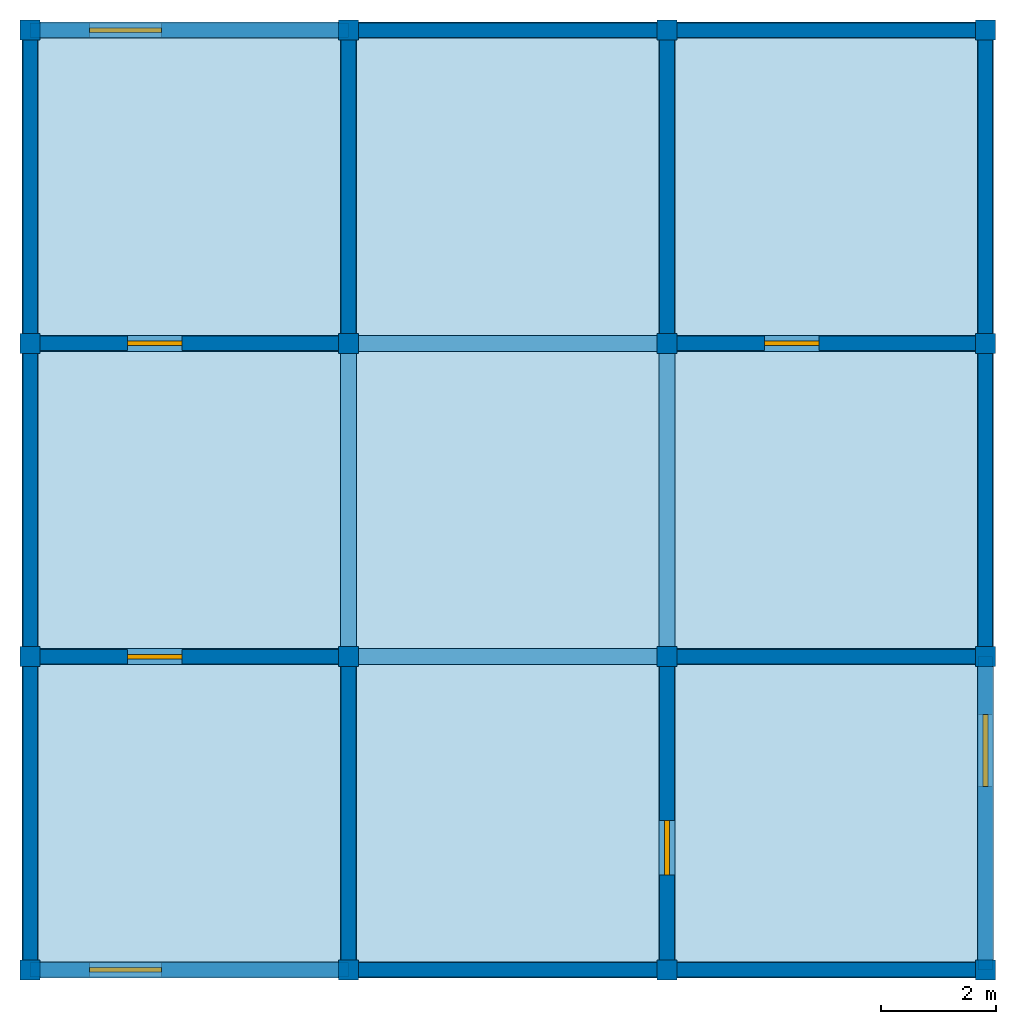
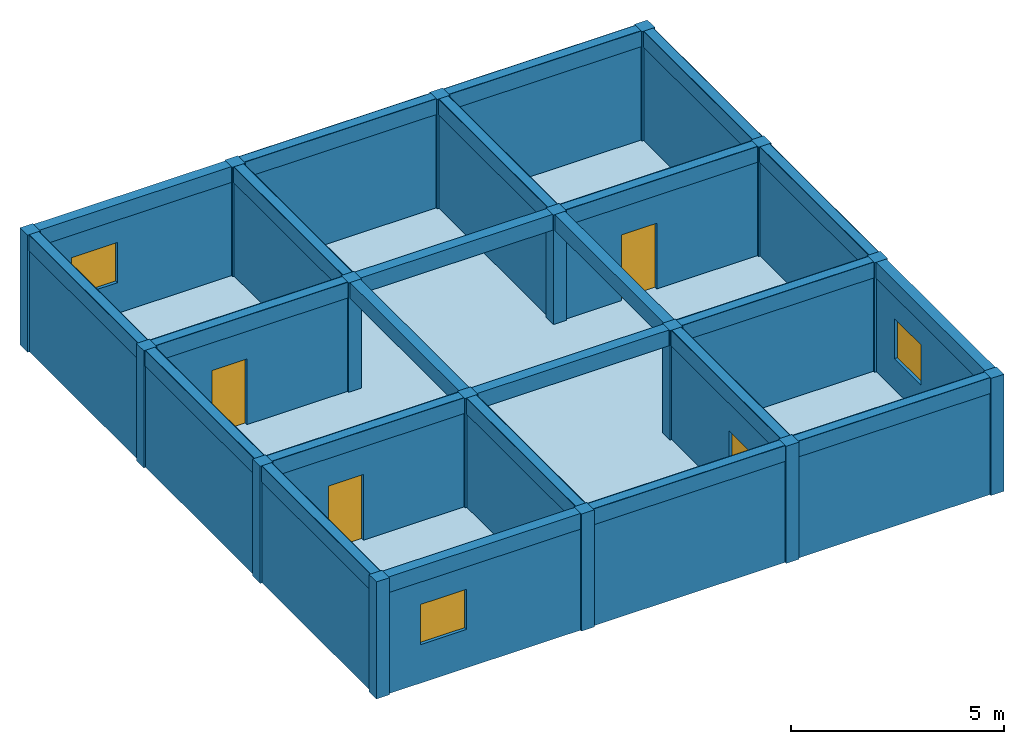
# One storey: 24 beams, 20 walls, 16 columns, 4 doors, 3 windows, 1 slab, 7 openings.
"""IFC4X3 building model written with IfcOpenShell, lengths in metres."""

from ifc_helpers import new_model, si_unit, frame, origin_with_axes, origin_2d, place, context, project, spatial, rectangle, extrude, material, element, fill, save


model = new_model("IFC4X3")

# Units and contexts
model_context = context("Model", 3, precision=1e-05, world=origin_with_axes())
ifc_project = project(units=[si_unit("LENGTHUNIT", "METRE"), si_unit("AREAUNIT", "SQUARE_METRE"), si_unit("VOLUMEUNIT", "CUBIC_METRE")], contexts=[model_context])

# Site, building, storey
site = spatial("IfcSite", under=ifc_project, Name="La Serena Parcel", CompositionType="ELEMENT")
building = spatial("IfcBuilding", under=site, Name="Atlas Building", CompositionType="ELEMENT")
storey = spatial("IfcBuildingStorey", under=building, Name="Level 3", CompositionType="ELEMENT", Elevation=6.7)

# Columns
ifc_material_1 = material(Name="Timber")
column_1_placement = place(None, frame((-8.31, -8.175, 6.698), z_axis=(0.0, 0.0, 1.0), x_axis=(1.0, 0.0, 0.0)))
element("IfcColumn", 1, at=column_1_placement, inside=storey, material=ifc_material_1, Name="Column 3.1", ObjectType="Facade Column", PredefinedType="NOTDEFINED", context=model_context, shape_type="SweptSolid", body=[
    extrude(rectangle(XDim=0.35, YDim=0.35, at=origin_2d()), origin_with_axes(), (0.0, 0.0, 1.0), 3.349),
])
column_2_placement = place(None, frame((-8.31, -2.725, 6.698), z_axis=(0.0, 0.0, 1.0), x_axis=(1.0, 0.0, 0.0)))
element("IfcColumn", 2, at=column_2_placement, inside=storey, material=ifc_material_1, Name="Column 3.2", ObjectType="Core Column", PredefinedType="NOTDEFINED", context=model_context, shape_type="SweptSolid", body=[
    extrude(rectangle(XDim=0.35, YDim=0.35, at=origin_2d()), origin_with_axes(), (0.0, 0.0, 1.0), 3.349),
])
column_3_placement = place(None, frame((-8.31, 2.725, 6.698), z_axis=(0.0, 0.0, 1.0), x_axis=(1.0, 0.0, 0.0)))
element("IfcColumn", 3, at=column_3_placement, inside=storey, material=ifc_material_1, Name="Column 3.3", ObjectType="Corner Column", PredefinedType="PILASTER", context=model_context, shape_type="SweptSolid", body=[
    extrude(rectangle(XDim=0.35, YDim=0.35, at=origin_2d()), origin_with_axes(), (0.0, 0.0, 1.0), 3.349),
])
column_4_placement = place(None, frame((-8.31, 8.175, 6.698), z_axis=(0.0, 0.0, 1.0), x_axis=(1.0, 0.0, 0.0)))
element("IfcColumn", 4, at=column_4_placement, inside=storey, material=ifc_material_1, Name="Column 3.4", ObjectType="Facade Column", PredefinedType="PILASTER", context=model_context, shape_type="SweptSolid", body=[
    extrude(rectangle(XDim=0.35, YDim=0.35, at=origin_2d()), origin_with_axes(), (0.0, 0.0, 1.0), 3.349),
])
column_5_placement = place(None, frame((-2.77, -8.175, 6.698), z_axis=(0.0, 0.0, 1.0), x_axis=(1.0, 0.0, 0.0)))
element("IfcColumn", 5, at=column_5_placement, inside=storey, material=ifc_material_1, Name="Column 3.5", ObjectType="Corner Column", PredefinedType="USERDEFINED", context=model_context, shape_type="SweptSolid", body=[
    extrude(rectangle(XDim=0.35, YDim=0.35, at=origin_2d()), origin_with_axes(), (0.0, 0.0, 1.0), 3.349),
])
column_6_placement = place(None, frame((-2.77, -2.725, 6.698), z_axis=(0.0, 0.0, 1.0), x_axis=(1.0, 0.0, 0.0)))
element("IfcColumn", 6, at=column_6_placement, inside=storey, material=ifc_material_1, Name="Column 3.6", ObjectType="Facade Column", PredefinedType="USERDEFINED", context=model_context, shape_type="SweptSolid", body=[
    extrude(rectangle(XDim=0.35, YDim=0.35, at=origin_2d()), origin_with_axes(), (0.0, 0.0, 1.0), 3.349),
])
column_7_placement = place(None, frame((-2.77, 2.725, 6.698), z_axis=(0.0, 0.0, 1.0), x_axis=(1.0, 0.0, 0.0)))
element("IfcColumn", 7, at=column_7_placement, inside=storey, material=ifc_material_1, Name="Column 3.7", ObjectType="Structural Column", PredefinedType="COLUMN", context=model_context, shape_type="SweptSolid", body=[
    extrude(rectangle(XDim=0.35, YDim=0.35, at=origin_2d()), origin_with_axes(), (0.0, 0.0, 1.0), 3.349),
])
column_8_placement = place(None, frame((-2.77, 8.175, 6.698), z_axis=(0.0, 0.0, 1.0), x_axis=(1.0, 0.0, 0.0)))
element("IfcColumn", 8, at=column_8_placement, inside=storey, material=ifc_material_1, Name="Column 3.8", ObjectType="Structural Column", PredefinedType="NOTDEFINED", context=model_context, shape_type="SweptSolid", body=[
    extrude(rectangle(XDim=0.35, YDim=0.35, at=origin_2d()), origin_with_axes(), (0.0, 0.0, 1.0), 3.349),
])
column_9_placement = place(None, frame((2.77, -8.175, 6.698), z_axis=(0.0, 0.0, 1.0), x_axis=(1.0, 0.0, 0.0)))
element("IfcColumn", 9, at=column_9_placement, inside=storey, material=ifc_material_1, Name="Column 3.9", ObjectType="Facade Column", PredefinedType="COLUMN", context=model_context, shape_type="SweptSolid", body=[
    extrude(rectangle(XDim=0.35, YDim=0.35, at=origin_2d()), origin_with_axes(), (0.0, 0.0, 1.0), 3.349),
])
column_10_placement = place(None, frame((2.77, -2.725, 6.698), z_axis=(0.0, 0.0, 1.0), x_axis=(1.0, 0.0, 0.0)))
element("IfcColumn", 10, at=column_10_placement, inside=storey, material=ifc_material_1, Name="Column 3.10", ObjectType="Corner Column", PredefinedType="PILASTER", context=model_context, shape_type="SweptSolid", body=[
    extrude(rectangle(XDim=0.35, YDim=0.35, at=origin_2d()), origin_with_axes(), (0.0, 0.0, 1.0), 3.349),
])
column_11_placement = place(None, frame((2.77, 2.725, 6.698), z_axis=(0.0, 0.0, 1.0), x_axis=(1.0, 0.0, 0.0)))
element("IfcColumn", 11, at=column_11_placement, inside=storey, material=ifc_material_1, Name="Column 3.11", ObjectType="Core Column", PredefinedType="USERDEFINED", context=model_context, shape_type="SweptSolid", body=[
    extrude(rectangle(XDim=0.35, YDim=0.35, at=origin_2d()), origin_with_axes(), (0.0, 0.0, 1.0), 3.349),
])
column_12_placement = place(None, frame((2.77, 8.175, 6.698), z_axis=(0.0, 0.0, 1.0), x_axis=(1.0, 0.0, 0.0)))
element("IfcColumn", 12, at=column_12_placement, inside=storey, material=ifc_material_1, Name="Column 3.12", ObjectType="Core Column", PredefinedType="NOTDEFINED", context=model_context, shape_type="SweptSolid", body=[
    extrude(rectangle(XDim=0.35, YDim=0.35, at=origin_2d()), origin_with_axes(), (0.0, 0.0, 1.0), 3.349),
])
column_13_placement = place(None, frame((8.31, -8.175, 6.698), z_axis=(0.0, 0.0, 1.0), x_axis=(1.0, 0.0, 0.0)))
element("IfcColumn", 13, at=column_13_placement, inside=storey, material=ifc_material_1, Name="Column 3.13", ObjectType="Structural Column", PredefinedType="COLUMN", context=model_context, shape_type="SweptSolid", body=[
    extrude(rectangle(XDim=0.35, YDim=0.35, at=origin_2d()), origin_with_axes(), (0.0, 0.0, 1.0), 3.349),
])
column_14_placement = place(None, frame((8.31, -2.725, 6.698), z_axis=(0.0, 0.0, 1.0), x_axis=(1.0, 0.0, 0.0)))
element("IfcColumn", 14, at=column_14_placement, inside=storey, material=ifc_material_1, Name="Column 3.14", ObjectType="Structural Column", PredefinedType="NOTDEFINED", context=model_context, shape_type="SweptSolid", body=[
    extrude(rectangle(XDim=0.35, YDim=0.35, at=origin_2d()), origin_with_axes(), (0.0, 0.0, 1.0), 3.349),
])
column_15_placement = place(None, frame((8.31, 2.725, 6.698), z_axis=(0.0, 0.0, 1.0), x_axis=(1.0, 0.0, 0.0)))
element("IfcColumn", 15, at=column_15_placement, inside=storey, material=ifc_material_1, Name="Column 3.15", ObjectType="Core Column", PredefinedType="NOTDEFINED", context=model_context, shape_type="SweptSolid", body=[
    extrude(rectangle(XDim=0.35, YDim=0.35, at=origin_2d()), origin_with_axes(), (0.0, 0.0, 1.0), 3.349),
])
column_16_placement = place(None, frame((8.31, 8.175, 6.698), z_axis=(0.0, 0.0, 1.0), x_axis=(1.0, 0.0, 0.0)))
element("IfcColumn", 16, at=column_16_placement, inside=storey, material=ifc_material_1, Name="Column 3.16", ObjectType="Core Column", PredefinedType="USERDEFINED", context=model_context, shape_type="SweptSolid", body=[
    extrude(rectangle(XDim=0.35, YDim=0.35, at=origin_2d()), origin_with_axes(), (0.0, 0.0, 1.0), 3.349),
])

# Beams
ifc_material_2 = material(Name="Concrete")
beam_1_placement = place(None, frame((-5.54, -8.175, 9.597), z_axis=(0.0, 0.0, 1.0), x_axis=(1.0, 0.0, 0.0)))
element("IfcBeam", 17, at=beam_1_placement, inside=storey, material=ifc_material_2, Name="Beam 3.1", ObjectType="Secondary Beam", PredefinedType="LINTEL", context=model_context, shape_type="SweptSolid", body=[
    extrude(rectangle(XDim=5.54, YDim=0.28, at=origin_2d()), origin_with_axes(), (0.0, 0.0, 1.0), 0.45),
])
beam_2_placement = place(None, frame((0.0, -8.175, 9.597), z_axis=(0.0, 0.0, 1.0), x_axis=(1.0, 0.0, 0.0)))
element("IfcBeam", 18, at=beam_2_placement, inside=storey, material=ifc_material_2, Name="Beam 3.2", ObjectType="Transfer Beam", PredefinedType="T_BEAM", context=model_context, shape_type="SweptSolid", body=[
    extrude(rectangle(XDim=5.54, YDim=0.28, at=origin_2d()), origin_with_axes(), (0.0, 0.0, 1.0), 0.45),
])
beam_3_placement = place(None, frame((5.54, -8.175, 9.597), z_axis=(0.0, 0.0, 1.0), x_axis=(1.0, 0.0, 0.0)))
element("IfcBeam", 19, at=beam_3_placement, inside=storey, material=ifc_material_2, Name="Beam 3.3", ObjectType="Transfer Beam", PredefinedType="USERDEFINED", context=model_context, shape_type="SweptSolid", body=[
    extrude(rectangle(XDim=5.54, YDim=0.28, at=origin_2d()), origin_with_axes(), (0.0, 0.0, 1.0), 0.45),
])
beam_4_placement = place(None, frame((-5.54, -2.725, 9.597), z_axis=(0.0, 0.0, 1.0), x_axis=(1.0, 0.0, 0.0)))
element("IfcBeam", 20, at=beam_4_placement, inside=storey, material=ifc_material_2, Name="Beam 3.4", ObjectType="Primary Beam", PredefinedType="JOIST", context=model_context, shape_type="SweptSolid", body=[
    extrude(rectangle(XDim=5.54, YDim=0.28, at=origin_2d()), origin_with_axes(), (0.0, 0.0, 1.0), 0.45),
])
beam_5_placement = place(None, frame((0.0, -2.725, 9.597), z_axis=(0.0, 0.0, 1.0), x_axis=(1.0, 0.0, 0.0)))
element("IfcBeam", 21, at=beam_5_placement, inside=storey, material=ifc_material_2, Name="Beam 3.5", ObjectType="Secondary Beam", PredefinedType="LINTEL", context=model_context, shape_type="SweptSolid", body=[
    extrude(rectangle(XDim=5.54, YDim=0.28, at=origin_2d()), origin_with_axes(), (0.0, 0.0, 1.0), 0.45),
])
beam_6_placement = place(None, frame((5.54, -2.725, 9.597), z_axis=(0.0, 0.0, 1.0), x_axis=(1.0, 0.0, 0.0)))
element("IfcBeam", 22, at=beam_6_placement, inside=storey, material=ifc_material_2, Name="Beam 3.6", ObjectType="Secondary Beam", PredefinedType="T_BEAM", context=model_context, shape_type="SweptSolid", body=[
    extrude(rectangle(XDim=5.54, YDim=0.28, at=origin_2d()), origin_with_axes(), (0.0, 0.0, 1.0), 0.45),
])
beam_7_placement = place(None, frame((-5.54, 2.725, 9.597), z_axis=(0.0, 0.0, 1.0), x_axis=(1.0, 0.0, 0.0)))
element("IfcBeam", 23, at=beam_7_placement, inside=storey, material=ifc_material_2, Name="Beam 3.7", ObjectType="Transfer Beam", PredefinedType="JOIST", context=model_context, shape_type="SweptSolid", body=[
    extrude(rectangle(XDim=5.54, YDim=0.28, at=origin_2d()), origin_with_axes(), (0.0, 0.0, 1.0), 0.45),
])
beam_8_placement = place(None, frame((0.0, 2.725, 9.597), z_axis=(0.0, 0.0, 1.0), x_axis=(1.0, 0.0, 0.0)))
element("IfcBeam", 24, at=beam_8_placement, inside=storey, material=ifc_material_2, Name="Beam 3.8", ObjectType="Transfer Beam", PredefinedType="NOTDEFINED", context=model_context, shape_type="SweptSolid", body=[
    extrude(rectangle(XDim=5.54, YDim=0.28, at=origin_2d()), origin_with_axes(), (0.0, 0.0, 1.0), 0.45),
])
beam_9_placement = place(None, frame((5.54, 2.725, 9.597), z_axis=(0.0, 0.0, 1.0), x_axis=(1.0, 0.0, 0.0)))
element("IfcBeam", 25, at=beam_9_placement, inside=storey, material=ifc_material_2, Name="Beam 3.9", ObjectType="Secondary Beam", PredefinedType="NOTDEFINED", context=model_context, shape_type="SweptSolid", body=[
    extrude(rectangle(XDim=5.54, YDim=0.28, at=origin_2d()), origin_with_axes(), (0.0, 0.0, 1.0), 0.45),
])
beam_10_placement = place(None, frame((-5.54, 8.175, 9.597), z_axis=(0.0, 0.0, 1.0), x_axis=(1.0, 0.0, 0.0)))
element("IfcBeam", 26, at=beam_10_placement, inside=storey, material=ifc_material_2, Name="Beam 3.10", ObjectType="Rafter Beam", PredefinedType="USERDEFINED", context=model_context, shape_type="SweptSolid", body=[
    extrude(rectangle(XDim=5.54, YDim=0.28, at=origin_2d()), origin_with_axes(), (0.0, 0.0, 1.0), 0.45),
])
beam_11_placement = place(None, frame((0.0, 8.175, 9.597), z_axis=(0.0, 0.0, 1.0), x_axis=(1.0, 0.0, 0.0)))
element("IfcBeam", 27, at=beam_11_placement, inside=storey, material=ifc_material_2, Name="Beam 3.11", ObjectType="Rafter Beam", PredefinedType="T_BEAM", context=model_context, shape_type="SweptSolid", body=[
    extrude(rectangle(XDim=5.54, YDim=0.28, at=origin_2d()), origin_with_axes(), (0.0, 0.0, 1.0), 0.45),
])
beam_12_placement = place(None, frame((5.54, 8.175, 9.597), z_axis=(0.0, 0.0, 1.0), x_axis=(1.0, 0.0, 0.0)))
element("IfcBeam", 28, at=beam_12_placement, inside=storey, material=ifc_material_2, Name="Beam 3.12", ObjectType="Transfer Beam", PredefinedType="HOLLOWCORE", context=model_context, shape_type="SweptSolid", body=[
    extrude(rectangle(XDim=5.54, YDim=0.28, at=origin_2d()), origin_with_axes(), (0.0, 0.0, 1.0), 0.45),
])
beam_13_placement = place(None, frame((-8.31, -5.45, 9.597), z_axis=(0.0, 0.0, 1.0), x_axis=(0.0, 1.0, 0.0)))
element("IfcBeam", 29, at=beam_13_placement, inside=storey, material=ifc_material_2, Name="Beam 3.13", ObjectType="Primary Beam", PredefinedType="HOLLOWCORE", context=model_context, shape_type="SweptSolid", body=[
    extrude(rectangle(XDim=5.45, YDim=0.28, at=origin_2d()), origin_with_axes(), (0.0, 0.0, 1.0), 0.45),
])
beam_14_placement = place(None, frame((-8.31, 0.0, 9.597), z_axis=(0.0, 0.0, 1.0), x_axis=(0.0, 1.0, 0.0)))
element("IfcBeam", 30, at=beam_14_placement, inside=storey, material=ifc_material_2, Name="Beam 3.14", ObjectType="Rafter Beam", PredefinedType="LINTEL", context=model_context, shape_type="SweptSolid", body=[
    extrude(rectangle(XDim=5.45, YDim=0.28, at=origin_2d()), origin_with_axes(), (0.0, 0.0, 1.0), 0.45),
])
beam_15_placement = place(None, frame((-8.31, 5.45, 9.597), z_axis=(0.0, 0.0, 1.0), x_axis=(0.0, 1.0, 0.0)))
element("IfcBeam", 31, at=beam_15_placement, inside=storey, material=ifc_material_2, Name="Beam 3.15", ObjectType="Primary Beam", PredefinedType="SPANDREL", context=model_context, shape_type="SweptSolid", body=[
    extrude(rectangle(XDim=5.45, YDim=0.28, at=origin_2d()), origin_with_axes(), (0.0, 0.0, 1.0), 0.45),
])
beam_16_placement = place(None, frame((-2.77, -5.45, 9.597), z_axis=(0.0, 0.0, 1.0), x_axis=(0.0, 1.0, 0.0)))
element("IfcBeam", 32, at=beam_16_placement, inside=storey, material=ifc_material_2, Name="Beam 3.16", ObjectType="Ridge Beam", PredefinedType="NOTDEFINED", context=model_context, shape_type="SweptSolid", body=[
    extrude(rectangle(XDim=5.45, YDim=0.28, at=origin_2d()), origin_with_axes(), (0.0, 0.0, 1.0), 0.45),
])
beam_17_placement = place(None, frame((-2.77, 0.0, 9.597), z_axis=(0.0, 0.0, 1.0), x_axis=(0.0, 1.0, 0.0)))
element("IfcBeam", 33, at=beam_17_placement, inside=storey, material=ifc_material_2, Name="Beam 3.17", ObjectType="Secondary Beam", PredefinedType="USERDEFINED", context=model_context, shape_type="SweptSolid", body=[
    extrude(rectangle(XDim=5.45, YDim=0.28, at=origin_2d()), origin_with_axes(), (0.0, 0.0, 1.0), 0.45),
])
beam_18_placement = place(None, frame((-2.77, 5.45, 9.597), z_axis=(0.0, 0.0, 1.0), x_axis=(0.0, 1.0, 0.0)))
element("IfcBeam", 34, at=beam_18_placement, inside=storey, material=ifc_material_2, Name="Beam 3.18", ObjectType="Transfer Beam", PredefinedType="NOTDEFINED", context=model_context, shape_type="SweptSolid", body=[
    extrude(rectangle(XDim=5.45, YDim=0.28, at=origin_2d()), origin_with_axes(), (0.0, 0.0, 1.0), 0.45),
])
beam_19_placement = place(None, frame((2.77, -5.45, 9.597), z_axis=(0.0, 0.0, 1.0), x_axis=(0.0, 1.0, 0.0)))
element("IfcBeam", 35, at=beam_19_placement, inside=storey, material=ifc_material_2, Name="Beam 3.19", ObjectType="Primary Beam", PredefinedType="JOIST", context=model_context, shape_type="SweptSolid", body=[
    extrude(rectangle(XDim=5.45, YDim=0.28, at=origin_2d()), origin_with_axes(), (0.0, 0.0, 1.0), 0.45),
])
for number, where, z_axis, x_axis, name in (
    (36, (2.77, 0.0, 9.597), (0.0, 0.0, 1.0), (0.0, 1.0, 0.0), "Beam 3.20"),
    (37, (2.77, 5.45, 9.597), (0.0, 0.0, 1.0), (0.0, 1.0, 0.0), "Beam 3.21"),
):
    element("IfcBeam", number, at=place(None, frame(where, z_axis=z_axis, x_axis=x_axis)), inside=storey, material=ifc_material_2, Name=name, ObjectType="Transfer Beam", PredefinedType="LINTEL", context=model_context, shape_type="SweptSolid", body=[
        extrude(rectangle(XDim=5.45, YDim=0.28, at=origin_2d()), origin_with_axes(), (0.0, 0.0, 1.0), 0.45),
    ])
beam_20_placement = place(None, frame((8.31, -5.45, 9.597), z_axis=(0.0, 0.0, 1.0), x_axis=(0.0, 1.0, 0.0)))
element("IfcBeam", 38, at=beam_20_placement, inside=storey, material=ifc_material_2, Name="Beam 3.22", ObjectType="Secondary Beam", PredefinedType="T_BEAM", context=model_context, shape_type="SweptSolid", body=[
    extrude(rectangle(XDim=5.45, YDim=0.28, at=origin_2d()), origin_with_axes(), (0.0, 0.0, 1.0), 0.45),
])
for number, where, z_axis, x_axis, name in (
    (39, (8.31, 0.0, 9.597), (0.0, 0.0, 1.0), (0.0, 1.0, 0.0), "Beam 3.23"),
    (40, (8.31, 5.45, 9.597), (0.0, 0.0, 1.0), (0.0, 1.0, 0.0), "Beam 3.24"),
):
    element("IfcBeam", number, at=place(None, frame(where, z_axis=z_axis, x_axis=x_axis)), inside=storey, material=ifc_material_2, Name=name, ObjectType="Ridge Beam", PredefinedType="SPANDREL", context=model_context, shape_type="SweptSolid", body=[
        extrude(rectangle(XDim=5.45, YDim=0.28, at=origin_2d()), origin_with_axes(), (0.0, 0.0, 1.0), 0.45),
    ])

# Slab
slab_placement = place(None, frame((0.0, 0.0, 6.7), z_axis=(0.0, 0.0, 1.0), x_axis=(1.0, 0.0, 0.0)))
element("IfcSlab", 41, at=slab_placement, inside=storey, material=ifc_material_1, Name="Slab 3", ObjectType="Floor Slab", PredefinedType="FLOOR", context=model_context, shape_type="SweptSolid", body=[
    extrude(rectangle(XDim=16.62, YDim=16.35, at=origin_2d()), origin_with_axes(), (0.0, 0.0, 1.0), 0.22),
])

# Wall, opening, door
ifc_material_3 = material(Name="Gypsum")
wall_1_placement = place(None, frame((-5.54, -2.725, 6.698), z_axis=(0.0, 0.0, 1.0), x_axis=(1.0, 0.0, 0.0)))
wall_1 = element("IfcWall", 42, at=wall_1_placement, inside=storey, material=ifc_material_3, Name="Wall 3.1", ObjectType="Corridor Partition", PredefinedType="PLUMBINGWALL", context=model_context, shape_type="SweptSolid", body=[
    extrude(rectangle(XDim=5.54, YDim=0.253198, at=origin_2d()), origin_with_axes(), (0.0, 0.0, 1.0), 3.349),
])
opening_1_placement = place(None, frame((-6.14, -2.725, 6.698), z_axis=(0.0, 0.0, 1.0), x_axis=(1.0, 0.0, 0.0)))
opening_1 = element("IfcOpeningElement", 43, at=opening_1_placement, cuts=wall_1, Name="Door opening 3.1", ObjectType="Door Opening", PredefinedType="OPENING", context=model_context, shape_type="SweptSolid", body=[
    extrude(rectangle(XDim=0.95, YDim=0.333198, at=origin_2d()), origin_with_axes(), (0.0, 0.0, 1.0), 2.1),
])
door_1_placement = place(None, frame((-6.14, -2.725, 6.698), z_axis=(0.0, 0.0, 1.0), x_axis=(1.0, 0.0, 0.0)))
door_1 = element("IfcDoor", 44, at=door_1_placement, inside=storey, Name="Door 3.1", ObjectType="Interior Door", OverallHeight=2.1, OverallWidth=0.95, context=model_context, shape_type="SweptSolid", body=[
    extrude(rectangle(XDim=0.95, YDim=0.08, at=origin_2d()), origin_with_axes(), (0.0, 0.0, 1.0), 2.1),
])
fill(opening_1, door_1)

# Wall
ifc_material_4 = material(Name="Brick")
wall_2_placement = place(None, frame((-2.77, -5.45, 6.698), z_axis=(0.0, 0.0, 1.0), x_axis=(0.0, 1.0, 0.0)))
element("IfcWall", 45, at=wall_2_placement, inside=storey, material=ifc_material_4, Name="Wall 3.2", ObjectType="Corridor Partition", PredefinedType="NOTDEFINED", context=model_context, shape_type="SweptSolid", body=[
    extrude(rectangle(XDim=5.45, YDim=0.253198, at=origin_2d()), origin_with_axes(), (0.0, 0.0, 1.0), 3.349),
])

# Wall, opening, window
wall_3_placement = place(None, frame((-5.54, -8.175, 6.698), z_axis=(0.0, 0.0, 1.0), x_axis=(1.0, 0.0, 0.0)))
wall_3 = element("IfcWall", 46, at=wall_3_placement, inside=storey, material=ifc_material_2, Name="Wall 3.3", ObjectType="Exterior Wall", PredefinedType="MOVABLE", context=model_context, shape_type="SweptSolid", body=[
    extrude(rectangle(XDim=5.54, YDim=0.253198, at=origin_2d()), origin_with_axes(), (0.0, 0.0, 1.0), 3.349),
])
opening_2_placement = place(None, frame((-6.648, -8.175, 7.798), z_axis=(0.0, 0.0, 1.0), x_axis=(1.0, 0.0, 0.0)))
opening_2 = element("IfcOpeningElement", 47, at=opening_2_placement, cuts=wall_3, Name="Window opening 3.2", ObjectType="Window Opening", PredefinedType="OPENING", context=model_context, shape_type="SweptSolid", body=[
    extrude(rectangle(XDim=1.25, YDim=0.333198, at=origin_2d()), origin_with_axes(), (0.0, 0.0, 1.0), 1.15),
])
window_1_placement = place(None, frame((-6.648, -8.175, 7.798), z_axis=(0.0, 0.0, 1.0), x_axis=(1.0, 0.0, 0.0)))
window_1 = element("IfcWindow", 48, at=window_1_placement, inside=storey, Name="Window 3.2", ObjectType="Sliding Window", OverallHeight=1.15, OverallWidth=1.25, context=model_context, shape_type="SweptSolid", body=[
    extrude(rectangle(XDim=1.25, YDim=0.08, at=origin_2d()), origin_with_axes(), (0.0, 0.0, 1.0), 1.15),
])
fill(opening_2, window_1)

# Wall
wall_4_placement = place(None, frame((-8.31, -5.45, 6.698), z_axis=(0.0, 0.0, 1.0), x_axis=(0.0, 1.0, 0.0)))
element("IfcWall", 49, at=wall_4_placement, inside=storey, material=ifc_material_3, Name="Wall 3.4", ObjectType="Exterior Wall", PredefinedType="ELEMENTEDWALL", context=model_context, shape_type="SweptSolid", body=[
    extrude(rectangle(XDim=5.45, YDim=0.253198, at=origin_2d()), origin_with_axes(), (0.0, 0.0, 1.0), 3.349),
])

# Wall, opening, door
wall_5_placement = place(None, frame((2.77, -5.45, 6.698), z_axis=(0.0, 0.0, 1.0), x_axis=(0.0, 1.0, 0.0)))
wall_5 = element("IfcWall", 50, at=wall_5_placement, inside=storey, material=ifc_material_2, Name="Wall 3.5", ObjectType="Corridor Partition", PredefinedType="ELEMENTEDWALL", context=model_context, shape_type="SweptSolid", body=[
    extrude(rectangle(XDim=5.45, YDim=0.253198, at=origin_2d()), origin_with_axes(), (0.0, 0.0, 1.0), 3.349),
])
opening_3_placement = place(None, frame((2.77, -6.05, 6.698), z_axis=(0.0, 0.0, 1.0), x_axis=(0.0, 1.0, 0.0)))
opening_3 = element("IfcOpeningElement", 51, at=opening_3_placement, cuts=wall_5, Name="Door opening 3.3", ObjectType="Door Opening", PredefinedType="OPENING", context=model_context, shape_type="SweptSolid", body=[
    extrude(rectangle(XDim=0.95, YDim=0.333198, at=origin_2d()), origin_with_axes(), (0.0, 0.0, 1.0), 2.1),
])
door_2_placement = place(None, frame((2.77, -6.05, 6.698), z_axis=(0.0, 0.0, 1.0), x_axis=(0.0, 1.0, 0.0)))
door_2 = element("IfcDoor", 52, at=door_2_placement, inside=storey, Name="Door 3.3", ObjectType="Entry Door", OverallHeight=2.1, OverallWidth=0.95, context=model_context, shape_type="SweptSolid", body=[
    extrude(rectangle(XDim=0.95, YDim=0.08, at=origin_2d()), origin_with_axes(), (0.0, 0.0, 1.0), 2.1),
])
fill(opening_3, door_2)

# Walls
wall_6_placement = place(None, frame((0.0, -8.175, 6.698), z_axis=(0.0, 0.0, 1.0), x_axis=(1.0, 0.0, 0.0)))
element("IfcWall", 53, at=wall_6_placement, inside=storey, material=ifc_material_2, Name="Wall 3.6", ObjectType="Exterior Wall", PredefinedType="PLUMBINGWALL", context=model_context, shape_type="SweptSolid", body=[
    extrude(rectangle(XDim=5.54, YDim=0.253198, at=origin_2d()), origin_with_axes(), (0.0, 0.0, 1.0), 3.349),
])
wall_7_placement = place(None, frame((5.54, -2.725, 6.698), z_axis=(0.0, 0.0, 1.0), x_axis=(1.0, 0.0, 0.0)))
element("IfcWall", 54, at=wall_7_placement, inside=storey, material=ifc_material_2, Name="Wall 3.7", ObjectType="Corridor Partition", PredefinedType="ELEMENTEDWALL", context=model_context, shape_type="SweptSolid", body=[
    extrude(rectangle(XDim=5.54, YDim=0.253198, at=origin_2d()), origin_with_axes(), (0.0, 0.0, 1.0), 3.349),
])

# Wall, opening, window
ifc_material_5 = material(Name="CLT")
wall_8_placement = place(None, frame((8.31, -5.45, 6.698), z_axis=(0.0, 0.0, 1.0), x_axis=(0.0, 1.0, 0.0)))
wall_8 = element("IfcWall", 55, at=wall_8_placement, inside=storey, material=ifc_material_5, Name="Wall 3.8", ObjectType="Exterior Wall", PredefinedType="POLYGONAL", context=model_context, shape_type="SweptSolid", body=[
    extrude(rectangle(XDim=5.45, YDim=0.253198, at=origin_2d()), origin_with_axes(), (0.0, 0.0, 1.0), 3.349),
])
opening_4_placement = place(None, frame((8.31, -4.36, 7.798), z_axis=(0.0, 0.0, 1.0), x_axis=(0.0, 1.0, 0.0)))
opening_4 = element("IfcOpeningElement", 56, at=opening_4_placement, cuts=wall_8, Name="Window opening 3.4", ObjectType="Window Opening", PredefinedType="OPENING", context=model_context, shape_type="SweptSolid", body=[
    extrude(rectangle(XDim=1.25, YDim=0.333198, at=origin_2d()), origin_with_axes(), (0.0, 0.0, 1.0), 1.15),
])
window_2_placement = place(None, frame((8.31, -4.36, 7.798), z_axis=(0.0, 0.0, 1.0), x_axis=(0.0, 1.0, 0.0)))
window_2 = element("IfcWindow", 57, at=window_2_placement, inside=storey, Name="Window 3.4", ObjectType="Curtain Window", OverallHeight=1.15, OverallWidth=1.25, context=model_context, shape_type="SweptSolid", body=[
    extrude(rectangle(XDim=1.25, YDim=0.08, at=origin_2d()), origin_with_axes(), (0.0, 0.0, 1.0), 1.15),
])
fill(opening_4, window_2)

# Wall
wall_9_placement = place(None, frame((5.54, -8.175, 6.698), z_axis=(0.0, 0.0, 1.0), x_axis=(1.0, 0.0, 0.0)))
element("IfcWall", 58, at=wall_9_placement, inside=storey, material=ifc_material_3, Name="Wall 3.9", ObjectType="Exterior Wall", PredefinedType="STANDARD", context=model_context, shape_type="SweptSolid", body=[
    extrude(rectangle(XDim=5.54, YDim=0.253198, at=origin_2d()), origin_with_axes(), (0.0, 0.0, 1.0), 3.349),
])

# Wall, opening, door
wall_10_placement = place(None, frame((-5.54, 2.725, 6.698), z_axis=(0.0, 0.0, 1.0), x_axis=(1.0, 0.0, 0.0)))
wall_10 = element("IfcWall", 59, at=wall_10_placement, inside=storey, material=ifc_material_2, Name="Wall 3.10", ObjectType="Corridor Partition", PredefinedType="SHEAR", context=model_context, shape_type="SweptSolid", body=[
    extrude(rectangle(XDim=5.54, YDim=0.253198, at=origin_2d()), origin_with_axes(), (0.0, 0.0, 1.0), 3.349),
])
opening_5_placement = place(None, frame((-6.14, 2.725, 6.698), z_axis=(0.0, 0.0, 1.0), x_axis=(1.0, 0.0, 0.0)))
opening_5 = element("IfcOpeningElement", 60, at=opening_5_placement, cuts=wall_10, Name="Door opening 3.5", ObjectType="Door Opening", PredefinedType="OPENING", context=model_context, shape_type="SweptSolid", body=[
    extrude(rectangle(XDim=0.95, YDim=0.333198, at=origin_2d()), origin_with_axes(), (0.0, 0.0, 1.0), 2.1),
])
door_3_placement = place(None, frame((-6.14, 2.725, 6.698), z_axis=(0.0, 0.0, 1.0), x_axis=(1.0, 0.0, 0.0)))
door_3 = element("IfcDoor", 61, at=door_3_placement, inside=storey, Name="Door 3.5", ObjectType="Interior Door", OverallHeight=2.1, OverallWidth=0.95, context=model_context, shape_type="SweptSolid", body=[
    extrude(rectangle(XDim=0.95, YDim=0.08, at=origin_2d()), origin_with_axes(), (0.0, 0.0, 1.0), 2.1),
])
fill(opening_5, door_3)

# Wall
wall_11_placement = place(None, frame((-8.31, 0.0, 6.698), z_axis=(0.0, 0.0, 1.0), x_axis=(0.0, 1.0, 0.0)))
element("IfcWall", 62, at=wall_11_placement, inside=storey, material=ifc_material_3, Name="Wall 3.11", ObjectType="Exterior Wall", PredefinedType="SHEAR", context=model_context, shape_type="SweptSolid", body=[
    extrude(rectangle(XDim=5.45, YDim=0.253198, at=origin_2d()), origin_with_axes(), (0.0, 0.0, 1.0), 3.349),
])

# Wall, opening, door
wall_12_placement = place(None, frame((5.54, 2.725, 6.698), z_axis=(0.0, 0.0, 1.0), x_axis=(1.0, 0.0, 0.0)))
wall_12 = element("IfcWall", 63, at=wall_12_placement, inside=storey, material=ifc_material_5, Name="Wall 3.12", ObjectType="Corridor Partition", PredefinedType="SHEAR", context=model_context, shape_type="SweptSolid", body=[
    extrude(rectangle(XDim=5.54, YDim=0.253198, at=origin_2d()), origin_with_axes(), (0.0, 0.0, 1.0), 3.349),
])
opening_6_placement = place(None, frame((4.94, 2.725, 6.698), z_axis=(0.0, 0.0, 1.0), x_axis=(1.0, 0.0, 0.0)))
opening_6 = element("IfcOpeningElement", 64, at=opening_6_placement, cuts=wall_12, Name="Door opening 3.7", ObjectType="Door Opening", PredefinedType="OPENING", context=model_context, shape_type="SweptSolid", body=[
    extrude(rectangle(XDim=0.95, YDim=0.333198, at=origin_2d()), origin_with_axes(), (0.0, 0.0, 1.0), 2.1),
])
door_4_placement = place(None, frame((4.94, 2.725, 6.698), z_axis=(0.0, 0.0, 1.0), x_axis=(1.0, 0.0, 0.0)))
door_4 = element("IfcDoor", 65, at=door_4_placement, inside=storey, Name="Door 3.7", ObjectType="Interior Door", OverallHeight=2.1, OverallWidth=0.95, context=model_context, shape_type="SweptSolid", body=[
    extrude(rectangle(XDim=0.95, YDim=0.08, at=origin_2d()), origin_with_axes(), (0.0, 0.0, 1.0), 2.1),
])
fill(opening_6, door_4)

# Wall
wall_13_placement = place(None, frame((8.31, 0.0, 6.698), z_axis=(0.0, 0.0, 1.0), x_axis=(0.0, 1.0, 0.0)))
element("IfcWall", 66, at=wall_13_placement, inside=storey, material=ifc_material_3, Name="Wall 3.13", ObjectType="Exterior Wall", PredefinedType="MOVABLE", context=model_context, shape_type="SweptSolid", body=[
    extrude(rectangle(XDim=5.45, YDim=0.253198, at=origin_2d()), origin_with_axes(), (0.0, 0.0, 1.0), 3.349),
])

# Wall, opening, window
wall_14_placement = place(None, frame((-5.54, 8.175, 6.698), z_axis=(0.0, 0.0, 1.0), x_axis=(1.0, 0.0, 0.0)))
wall_14 = element("IfcWall", 67, at=wall_14_placement, inside=storey, material=ifc_material_2, Name="Wall 3.14", ObjectType="Exterior Wall", PredefinedType="ELEMENTEDWALL", context=model_context, shape_type="SweptSolid", body=[
    extrude(rectangle(XDim=5.54, YDim=0.253198, at=origin_2d()), origin_with_axes(), (0.0, 0.0, 1.0), 3.349),
])
opening_7_placement = place(None, frame((-6.648, 8.175, 7.798), z_axis=(0.0, 0.0, 1.0), x_axis=(1.0, 0.0, 0.0)))
opening_7 = element("IfcOpeningElement", 68, at=opening_7_placement, cuts=wall_14, Name="Window opening 3.6", ObjectType="Window Opening", PredefinedType="OPENING", context=model_context, shape_type="SweptSolid", body=[
    extrude(rectangle(XDim=1.25, YDim=0.333198, at=origin_2d()), origin_with_axes(), (0.0, 0.0, 1.0), 1.15),
])
window_3_placement = place(None, frame((-6.648, 8.175, 7.798), z_axis=(0.0, 0.0, 1.0), x_axis=(1.0, 0.0, 0.0)))
window_3 = element("IfcWindow", 69, at=window_3_placement, inside=storey, Name="Window 3.6", ObjectType="Curtain Window", OverallHeight=1.15, OverallWidth=1.25, context=model_context, shape_type="SweptSolid", body=[
    extrude(rectangle(XDim=1.25, YDim=0.08, at=origin_2d()), origin_with_axes(), (0.0, 0.0, 1.0), 1.15),
])
fill(opening_7, window_3)

# Walls
wall_15_placement = place(None, frame((-2.77, 5.45, 6.698), z_axis=(0.0, 0.0, 1.0), x_axis=(0.0, 1.0, 0.0)))
element("IfcWall", 70, at=wall_15_placement, inside=storey, material=ifc_material_4, Name="Wall 3.15", ObjectType="Corridor Partition", PredefinedType="PLUMBINGWALL", context=model_context, shape_type="SweptSolid", body=[
    extrude(rectangle(XDim=5.45, YDim=0.253198, at=origin_2d()), origin_with_axes(), (0.0, 0.0, 1.0), 3.349),
])
wall_16_placement = place(None, frame((-8.31, 5.45, 6.698), z_axis=(0.0, 0.0, 1.0), x_axis=(0.0, 1.0, 0.0)))
element("IfcWall", 71, at=wall_16_placement, inside=storey, material=ifc_material_3, Name="Wall 3.16", ObjectType="Exterior Wall", PredefinedType="SOLIDWALL", context=model_context, shape_type="SweptSolid", body=[
    extrude(rectangle(XDim=5.45, YDim=0.253198, at=origin_2d()), origin_with_axes(), (0.0, 0.0, 1.0), 3.349),
])
wall_17_placement = place(None, frame((0.0, 8.175, 6.698), z_axis=(0.0, 0.0, 1.0), x_axis=(1.0, 0.0, 0.0)))
element("IfcWall", 72, at=wall_17_placement, inside=storey, material=ifc_material_2, Name="Wall 3.17", ObjectType="Exterior Wall", PredefinedType="PARTITIONING", context=model_context, shape_type="SweptSolid", body=[
    extrude(rectangle(XDim=5.54, YDim=0.253198, at=origin_2d()), origin_with_axes(), (0.0, 0.0, 1.0), 3.349),
])
wall_18_placement = place(None, frame((2.77, 5.45, 6.698), z_axis=(0.0, 0.0, 1.0), x_axis=(0.0, 1.0, 0.0)))
element("IfcWall", 73, at=wall_18_placement, inside=storey, material=ifc_material_4, Name="Wall 3.18", ObjectType="Corridor Partition", PredefinedType="MOVABLE", context=model_context, shape_type="SweptSolid", body=[
    extrude(rectangle(XDim=5.45, YDim=0.253198, at=origin_2d()), origin_with_axes(), (0.0, 0.0, 1.0), 3.349),
])
wall_19_placement = place(None, frame((5.54, 8.175, 6.698), z_axis=(0.0, 0.0, 1.0), x_axis=(1.0, 0.0, 0.0)))
element("IfcWall", 74, at=wall_19_placement, inside=storey, material=ifc_material_3, Name="Wall 3.19", ObjectType="Exterior Wall", PredefinedType="STANDARD", context=model_context, shape_type="SweptSolid", body=[
    extrude(rectangle(XDim=5.54, YDim=0.253198, at=origin_2d()), origin_with_axes(), (0.0, 0.0, 1.0), 3.349),
])
wall_20_placement = place(None, frame((8.31, 5.45, 6.698), z_axis=(0.0, 0.0, 1.0), x_axis=(0.0, 1.0, 0.0)))
element("IfcWall", 75, at=wall_20_placement, inside=storey, material=ifc_material_2, Name="Wall 3.20", ObjectType="Exterior Wall", PredefinedType="SOLIDWALL", context=model_context, shape_type="SweptSolid", body=[
    extrude(rectangle(XDim=5.45, YDim=0.253198, at=origin_2d()), origin_with_axes(), (0.0, 0.0, 1.0), 3.349),
])

save(model, "model.ifc")
